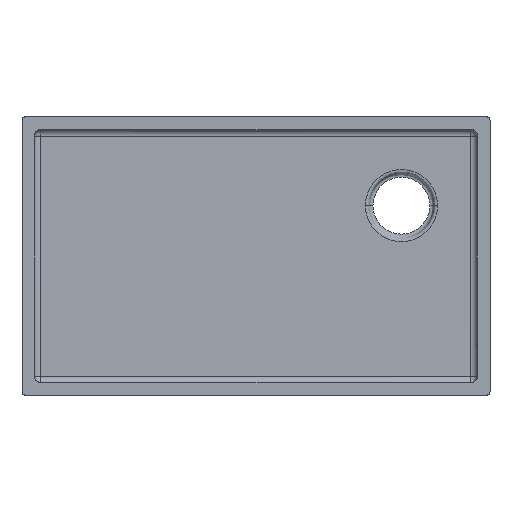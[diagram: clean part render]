
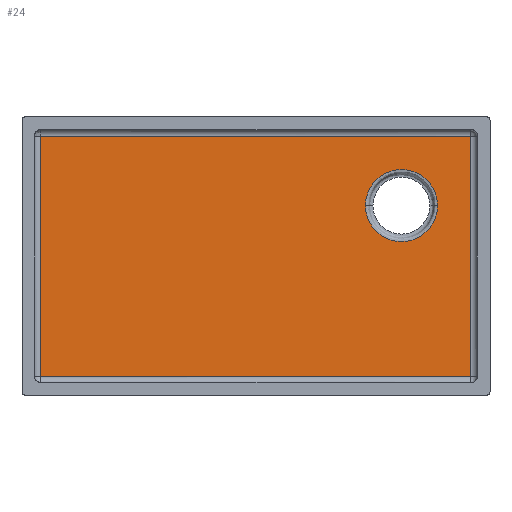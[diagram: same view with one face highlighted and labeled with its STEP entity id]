
A CAD part, top view. The second image highlights one B-rep face of the part: STEP entity #24.
In plain terms, the highlighted planar face has unit normal (-0.014, 0, -1).
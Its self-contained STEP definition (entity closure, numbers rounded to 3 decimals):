
#17=FACE_BOUND('',#87,.T.);
#24=ADVANCED_FACE('',(#54,#17),#438,.T.);
#54=FACE_OUTER_BOUND('',#86,.T.);
#86=EDGE_LOOP('',(#149,#150,#151,#152));
#87=EDGE_LOOP('',(#153,#154));
#149=ORIENTED_EDGE('',*,*,#263,.T.);
#150=ORIENTED_EDGE('',*,*,#264,.F.);
#151=ORIENTED_EDGE('',*,*,#262,.F.);
#152=ORIENTED_EDGE('',*,*,#261,.F.);
#153=ORIENTED_EDGE('',*,*,#314,.F.);
#154=ORIENTED_EDGE('',*,*,#284,.F.);
#261=EDGE_CURVE('',#405,#406,#329,.T.);
#262=EDGE_CURVE('',#406,#407,#330,.T.);
#263=EDGE_CURVE('',#405,#408,#331,.T.);
#264=EDGE_CURVE('',#407,#408,#332,.T.);
#284=EDGE_CURVE('',#409,#430,#335,.T.);
#314=EDGE_CURVE('',#430,#409,#354,.T.);
#329=B_SPLINE_CURVE_WITH_KNOTS('',1,(#1307,#1308),.UNSPECIFIED.,.F.,.F.,
(2,2),(10.,390.),.UNSPECIFIED.);
#330=B_SPLINE_CURVE_WITH_KNOTS('',1,(#1309,#1310),.UNSPECIFIED.,.F.,.F.,
(2,2),(10.144,690.213),.UNSPECIFIED.);
#331=B_SPLINE_CURVE_WITH_KNOTS('',1,(#1311,#1312),.UNSPECIFIED.,.F.,.F.,
(2,2),(10.144,690.213),.UNSPECIFIED.);
#332=B_SPLINE_CURVE_WITH_KNOTS('',1,(#1313,#1314),.UNSPECIFIED.,.F.,.F.,
(2,2),(10.,390.),.UNSPECIFIED.);
#335=B_SPLINE_CURVE_WITH_KNOTS('',3,(#1406,#1407,#1408,#1409,#1410,#1411,
#1412,#1413,#1414,#1415,#1416,#1417,#1418,#1419,#1420,#1421,#1422,#1423,
#1424,#1425,#1426,#1427,#1428,#1429,#1430,#1431,#1432,#1433,#1434,#1435,
#1436,#1437,#1438,#1439,#1440),.UNSPECIFIED.,.F.,.F.,(4,1,2,2,2,2,2,2,2,
2,2,2,2,2,2,2,2,4),(0.,5.007,10.014,20.029,
30.043,40.057,50.072,60.086,70.1,
80.115,90.129,100.143,110.158,120.172,
130.186,140.201,150.215,160.229),
 .UNSPECIFIED.);
#354=B_SPLINE_CURVE_WITH_KNOTS('',3,(#1562,#1563,#1564,#1565,#1566,#1567,
#1568,#1569,#1570,#1571,#1572,#1573,#1574,#1575,#1576,#1577,#1578,#1579,
#1580,#1581,#1582,#1583,#1584,#1585,#1586,#1587,#1588,#1589,#1590,#1591,
#1592,#1593,#1594,#1595,#1596),.UNSPECIFIED.,.F.,.F.,(4,2,2,2,2,2,2,2,2,
2,2,2,2,2,2,2,1,4),(160.229,170.244,180.258,
190.272,200.287,210.301,220.315,230.33,
240.344,250.358,260.373,270.387,280.401,
290.416,300.43,310.444,315.452,320.459),
 .UNSPECIFIED.);
#405=VERTEX_POINT('',#1227);
#406=VERTEX_POINT('',#1228);
#407=VERTEX_POINT('',#1229);
#408=VERTEX_POINT('',#1230);
#409=VERTEX_POINT('',#1231);
#430=VERTEX_POINT('',#1252);
#438=PLANE('',#484);
#484=AXIS2_PLACEMENT_3D('',#568,#495,$);
#495=DIRECTION('',(-0.014,0.,-1.));
#568=CARTESIAN_POINT('',(-4712.18,-655.812,-180.));
#1227=CARTESIAN_POINT('',(-4022.323,-645.812,-189.855));
#1228=CARTESIAN_POINT('',(-4022.323,-265.812,-189.855));
#1229=CARTESIAN_POINT('',(-4702.323,-265.812,-180.141));
#1230=CARTESIAN_POINT('',(-4702.323,-645.812,-180.141));
#1231=CARTESIAN_POINT('',(-4075.18,-375.812,-189.1));
#1252=CARTESIAN_POINT('',(-4189.18,-375.812,-187.471));
#1307=CARTESIAN_POINT('',(-4022.323,-645.812,-189.855));
#1308=CARTESIAN_POINT('',(-4022.323,-265.812,-189.855));
#1309=CARTESIAN_POINT('',(-4022.323,-265.812,-189.855));
#1310=CARTESIAN_POINT('',(-4702.323,-265.812,-180.141));
#1311=CARTESIAN_POINT('',(-4022.323,-645.812,-189.855));
#1312=CARTESIAN_POINT('',(-4702.323,-645.812,-180.141));
#1313=CARTESIAN_POINT('',(-4702.323,-265.812,-180.141));
#1314=CARTESIAN_POINT('',(-4702.323,-645.812,-180.141));
#1406=CARTESIAN_POINT('',(-4075.18,-375.812,-189.1));
#1407=CARTESIAN_POINT('',(-4075.18,-377.677,-189.1));
#1408=CARTESIAN_POINT('',(-4075.363,-381.408,-189.097));
#1409=CARTESIAN_POINT('',(-4075.911,-385.103,-189.09));
#1410=CARTESIAN_POINT('',(-4077.003,-390.591,-189.074));
#1411=CARTESIAN_POINT('',(-4078.091,-394.179,-189.058));
#1412=CARTESIAN_POINT('',(-4080.947,-401.073,-189.018));
#1413=CARTESIAN_POINT('',(-4082.714,-404.378,-188.992));
#1414=CARTESIAN_POINT('',(-4086.86,-410.583,-188.933));
#1415=CARTESIAN_POINT('',(-4089.237,-413.48,-188.899));
#1416=CARTESIAN_POINT('',(-4094.514,-418.756,-188.824));
#1417=CARTESIAN_POINT('',(-4097.411,-421.134,-188.782));
#1418=CARTESIAN_POINT('',(-4103.615,-425.279,-188.694));
#1419=CARTESIAN_POINT('',(-4106.921,-427.046,-188.647));
#1420=CARTESIAN_POINT('',(-4113.814,-429.901,-188.548));
#1421=CARTESIAN_POINT('',(-4117.402,-430.989,-188.497));
#1422=CARTESIAN_POINT('',(-4124.719,-432.445,-188.392));
#1423=CARTESIAN_POINT('',(-4128.449,-432.812,-188.339));
#1424=CARTESIAN_POINT('',(-4135.91,-432.812,-188.232));
#1425=CARTESIAN_POINT('',(-4139.64,-432.445,-188.179));
#1426=CARTESIAN_POINT('',(-4146.958,-430.989,-188.075));
#1427=CARTESIAN_POINT('',(-4150.545,-429.901,-188.023));
#1428=CARTESIAN_POINT('',(-4157.438,-427.047,-187.925));
#1429=CARTESIAN_POINT('',(-4160.745,-425.279,-187.878));
#1430=CARTESIAN_POINT('',(-4166.948,-421.135,-187.789));
#1431=CARTESIAN_POINT('',(-4169.847,-418.755,-187.748));
#1432=CARTESIAN_POINT('',(-4175.122,-413.481,-187.672));
#1433=CARTESIAN_POINT('',(-4177.501,-410.582,-187.638));
#1434=CARTESIAN_POINT('',(-4181.645,-404.38,-187.579));
#1435=CARTESIAN_POINT('',(-4183.414,-401.072,-187.554));
#1436=CARTESIAN_POINT('',(-4186.268,-394.18,-187.513));
#1437=CARTESIAN_POINT('',(-4187.357,-390.592,-187.497));
#1438=CARTESIAN_POINT('',(-4188.812,-383.274,-187.477));
#1439=CARTESIAN_POINT('',(-4189.18,-379.543,-187.471));
#1440=CARTESIAN_POINT('',(-4189.18,-375.812,-187.471));
#1562=CARTESIAN_POINT('',(-4189.18,-375.812,-187.471));
#1563=CARTESIAN_POINT('',(-4189.18,-372.081,-187.471));
#1564=CARTESIAN_POINT('',(-4188.812,-368.35,-187.477));
#1565=CARTESIAN_POINT('',(-4187.357,-361.033,-187.497));
#1566=CARTESIAN_POINT('',(-4186.269,-357.445,-187.513));
#1567=CARTESIAN_POINT('',(-4183.413,-350.551,-187.554));
#1568=CARTESIAN_POINT('',(-4181.646,-347.246,-187.579));
#1569=CARTESIAN_POINT('',(-4177.5,-341.041,-187.638));
#1570=CARTESIAN_POINT('',(-4175.123,-338.144,-187.672));
#1571=CARTESIAN_POINT('',(-4169.846,-332.868,-187.748));
#1572=CARTESIAN_POINT('',(-4166.949,-330.49,-187.789));
#1573=CARTESIAN_POINT('',(-4160.744,-326.345,-187.878));
#1574=CARTESIAN_POINT('',(-4157.439,-324.578,-187.925));
#1575=CARTESIAN_POINT('',(-4150.546,-321.723,-188.023));
#1576=CARTESIAN_POINT('',(-4146.958,-320.635,-188.075));
#1577=CARTESIAN_POINT('',(-4139.641,-319.179,-188.179));
#1578=CARTESIAN_POINT('',(-4135.91,-318.812,-188.232));
#1579=CARTESIAN_POINT('',(-4128.45,-318.812,-188.339));
#1580=CARTESIAN_POINT('',(-4124.719,-319.179,-188.392));
#1581=CARTESIAN_POINT('',(-4117.402,-320.635,-188.497));
#1582=CARTESIAN_POINT('',(-4113.815,-321.723,-188.548));
#1583=CARTESIAN_POINT('',(-4106.922,-324.577,-188.647));
#1584=CARTESIAN_POINT('',(-4103.614,-326.345,-188.694));
#1585=CARTESIAN_POINT('',(-4097.412,-330.489,-188.782));
#1586=CARTESIAN_POINT('',(-4094.513,-332.868,-188.824));
#1587=CARTESIAN_POINT('',(-4089.238,-338.143,-188.899));
#1588=CARTESIAN_POINT('',(-4086.859,-341.042,-188.933));
#1589=CARTESIAN_POINT('',(-4082.715,-347.244,-188.992));
#1590=CARTESIAN_POINT('',(-4080.946,-350.552,-189.018));
#1591=CARTESIAN_POINT('',(-4078.091,-357.444,-189.058));
#1592=CARTESIAN_POINT('',(-4077.003,-361.032,-189.074));
#1593=CARTESIAN_POINT('',(-4075.912,-366.52,-189.09));
#1594=CARTESIAN_POINT('',(-4075.363,-370.216,-189.097));
#1595=CARTESIAN_POINT('',(-4075.18,-373.947,-189.1));
#1596=CARTESIAN_POINT('',(-4075.18,-375.812,-189.1));
